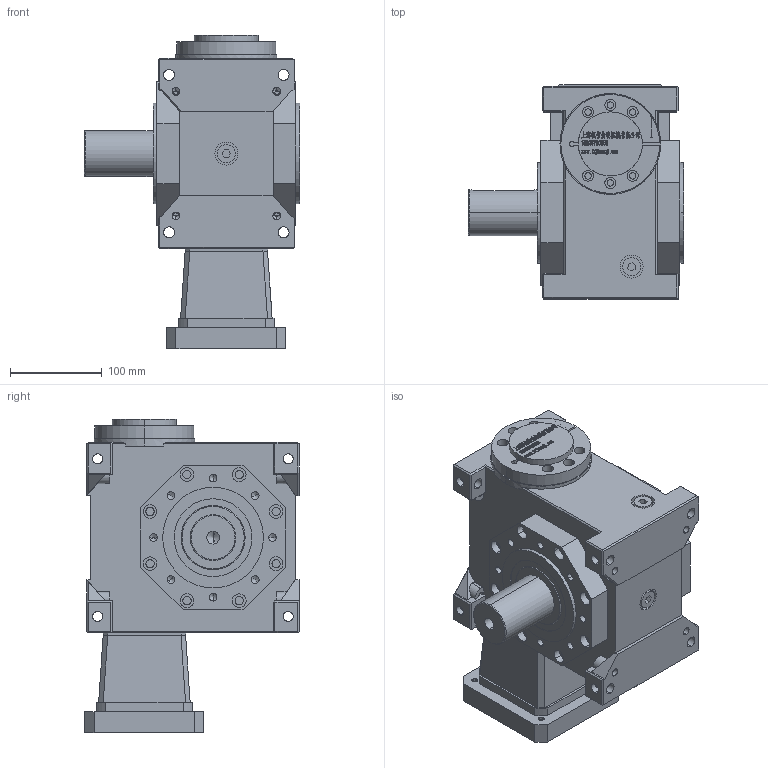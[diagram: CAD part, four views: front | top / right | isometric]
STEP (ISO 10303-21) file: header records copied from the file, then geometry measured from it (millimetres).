
FILE_DESCRIPTION (( 'STEP AP203' ), '1' );
FILE_NAME ('FXLB075-(5~90)-ASL-24-110-145-M8.step', '2022-11-06T06:35:54', ( '' ), ( '' ), 'SwSTEP 2.0', 'SolidWorks 2020', '' );
FILE_SCHEMA (( 'CONFIG_CONTROL_DESIGN' ));
Length unit declared in the file: millimetre
Products named in the file (8): JDLB075-CR____.step; JDLB075-ST105________1.step; JDLB075-ASR________50.step; FXLB075-(5~90)-ASL-24-110-145-M8.step; ______BD68-73.3-24-24____.step; FXLB075-(5~90)-ASL-24-110-145-M8; 錨璃295^FXLB075-(5~90)-ASL-24-110-145-M8; ST130-110-145-M8____________.step
Assembly tree (7 placements, depth 3):
  FXLB075-(5~90)-ASL-24-110-145-M8
    FXLB075-(5~90)-ASL-24-110-145-M8.step
      JDLB075-CR____.step
      JDLB075-ST105________1.step
      ST130-110-145-M8____________.step
      JDLB075-ASR________50.step
      ______BD68-73.3-24-24____.step
    錨璃295^FXLB075-(5~90)-ASL-24-110-145-M8
Bounding box: 235 x 234 x 342.2 mm (x, y, z)
Volume: 7243152.2 mm3; surface area: 594087.6 mm2
Topology: 82 solids, 82 shells, 2690 faces, 7029 edges, 4585 vertices
Faces by surface type: plane 1545, bspline 572, cylinder 451, cone 104, torus 18
Entity records: 113294 total; most frequent: CARTESIAN_POINT 49758, ORIENTED_EDGE 13934, DIRECTION 10957, EDGE_CURVE 6967, LINE 4747, VECTOR 4747, VERTEX_POINT 4585, AXIS2_PLACEMENT_3D 3105
